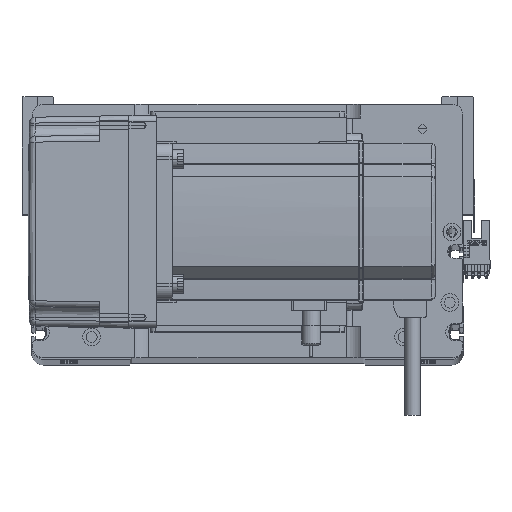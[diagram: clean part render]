
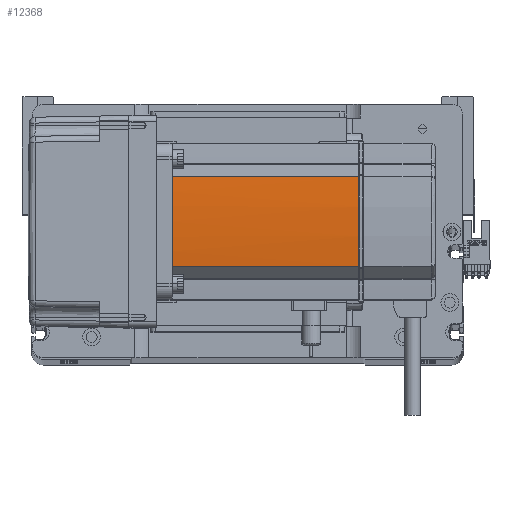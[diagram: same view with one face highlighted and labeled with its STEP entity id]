
A CAD part, top view. The second image highlights one B-rep face of the part: STEP entity #12368.
In plain terms, the highlighted cylindrical face has radius 270 mm (diameter 540 mm), a partial arc.
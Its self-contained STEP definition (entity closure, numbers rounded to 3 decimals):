
#184 = VERTEX_POINT ( 'NONE', #49268 ) ;
#188 = VERTEX_POINT ( 'NONE', #41440 ) ;
#1285 = CIRCLE ( 'NONE', #2823, 270. ) ;
#1419 = AXIS2_PLACEMENT_3D ( 'NONE', #14352, #27336, #26792 ) ;
#1913 = VECTOR ( 'NONE', #35312, 1000. ) ;
#2823 = AXIS2_PLACEMENT_3D ( 'NONE', #22055, #30097, #42906 ) ;
#3836 = CYLINDRICAL_SURFACE ( 'NONE', #14350, 270. ) ;
#5092 = DIRECTION ( 'NONE',  ( 0., 0., -1. ) ) ;
#9366 = LINE ( 'NONE', #17623, #21239 ) ;
#11742 = CARTESIAN_POINT ( 'NONE',  ( 40., -0.127, 134. ) ) ;
#12165 = EDGE_CURVE ( 'NONE', #188, #52294, #36589, .T. ) ;
#12368 = ADVANCED_FACE ( 'NONE', ( #33953 ), #3836, .T. ) ;
#14350 = AXIS2_PLACEMENT_3D ( 'NONE', #34903, #5092, #50806 ) ;
#14352 = CARTESIAN_POINT ( 'NONE',  ( -230., 0., 39. ) ) ;
#16178 = DIRECTION ( 'NONE',  ( -1., 0., 0. ) ) ;
#17623 = CARTESIAN_POINT ( 'NONE',  ( 39.042, 22.724, 58. ) ) ;
#17821 = CIRCLE ( 'NONE', #50422, 270. ) ;
#19690 = CARTESIAN_POINT ( 'NONE',  ( -230., 0., 134. ) ) ;
#20288 = EDGE_CURVE ( 'NONE', #30915, #32036, #17821, .T. ) ;
#21239 = VECTOR ( 'NONE', #46856, 1000. ) ;
#21656 = EDGE_CURVE ( 'NONE', #188, #30915, #9366, .T. ) ;
#22055 = CARTESIAN_POINT ( 'NONE',  ( -230., 0., 134. ) ) ;
#23651 = ORIENTED_EDGE ( 'NONE', *, *, #21656, .T. ) ;
#24034 = CARTESIAN_POINT ( 'NONE',  ( 40., -0.042, 134. ) ) ;
#24859 = ORIENTED_EDGE ( 'NONE', *, *, #12165, .F. ) ;
#26236 = CARTESIAN_POINT ( 'NONE',  ( 39.042, 22.724, 134. ) ) ;
#26792 = DIRECTION ( 'NONE',  ( -1., 0., 0. ) ) ;
#26896 = CARTESIAN_POINT ( 'NONE',  ( 39.042, -22.724, 58. ) ) ;
#27336 = DIRECTION ( 'NONE',  ( 0., 0., -1. ) ) ;
#27476 = EDGE_LOOP ( 'NONE', ( #36894, #24859, #23651, #36312, #43822, #38547 ) ) ;
#30097 = DIRECTION ( 'NONE',  ( 0., 0., -1. ) ) ;
#30863 = EDGE_CURVE ( 'NONE', #45401, #184, #1285, .T. ) ;
#30915 = VERTEX_POINT ( 'NONE', #26236 ) ;
#31089 = EDGE_CURVE ( 'NONE', #184, #52294, #44422, .T. ) ;
#32036 = VERTEX_POINT ( 'NONE', #35223 ) ;
#32729 = CARTESIAN_POINT ( 'NONE',  ( 40., -0.127, 134. ) ) ;
#33953 = FACE_OUTER_BOUND ( 'NONE', #27476, .T. ) ;
#34903 = CARTESIAN_POINT ( 'NONE',  ( -230., 0., 58. ) ) ;
#35223 = CARTESIAN_POINT ( 'NONE',  ( 40., 0.127, 134. ) ) ;
#35312 = DIRECTION ( 'NONE',  ( 0., 0., -1. ) ) ;
#35982 = B_SPLINE_CURVE_WITH_KNOTS ( 'NONE', 3,
 ( #11742, #24034, #44894, #41021 ),
 .UNSPECIFIED., .F., .F.,
 ( 4, 4 ),
 ( 0., 1. ),
 .UNSPECIFIED. ) ;
#36312 = ORIENTED_EDGE ( 'NONE', *, *, #20288, .T. ) ;
#36589 = CIRCLE ( 'NONE', #1419, 270. ) ;
#36894 = ORIENTED_EDGE ( 'NONE', *, *, #31089, .T. ) ;
#38547 = ORIENTED_EDGE ( 'NONE', *, *, #30863, .T. ) ;
#41021 = CARTESIAN_POINT ( 'NONE',  ( 40., 0.127, 134. ) ) ;
#41440 = CARTESIAN_POINT ( 'NONE',  ( 39.042, 22.724, 39. ) ) ;
#42906 = DIRECTION ( 'NONE',  ( -1., 0., 0. ) ) ;
#43822 = ORIENTED_EDGE ( 'NONE', *, *, #44901, .F. ) ;
#44422 = LINE ( 'NONE', #26896, #1913 ) ;
#44894 = CARTESIAN_POINT ( 'NONE',  ( 40., 0.042, 134. ) ) ;
#44901 = EDGE_CURVE ( 'NONE', #45401, #32036, #35982, .T. ) ;
#45401 = VERTEX_POINT ( 'NONE', #32729 ) ;
#46856 = DIRECTION ( 'NONE',  ( 0., 0., 1. ) ) ;
#48144 = CARTESIAN_POINT ( 'NONE',  ( 39.042, -22.724, 39. ) ) ;
#49268 = CARTESIAN_POINT ( 'NONE',  ( 39.042, -22.724, 134. ) ) ;
#50422 = AXIS2_PLACEMENT_3D ( 'NONE', #19690, #53125, #16178 ) ;
#50806 = DIRECTION ( 'NONE',  ( -1., 0., 0. ) ) ;
#52294 = VERTEX_POINT ( 'NONE', #48144 ) ;
#53125 = DIRECTION ( 'NONE',  ( 0., 0., -1. ) ) ;
